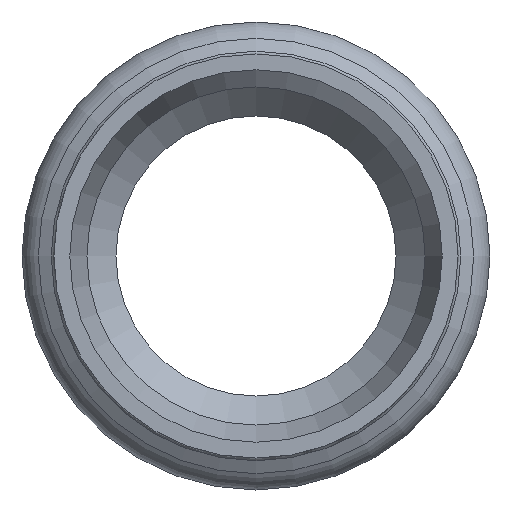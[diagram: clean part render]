
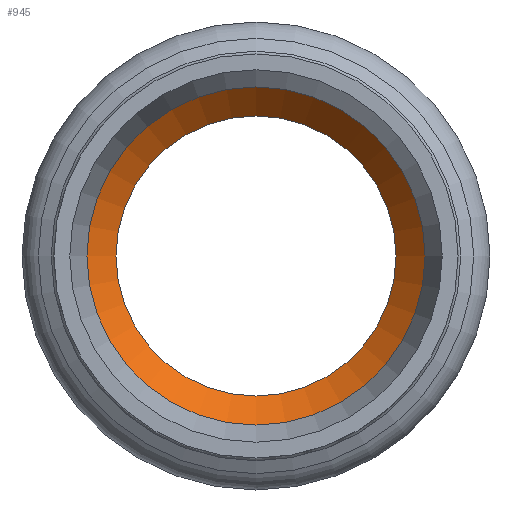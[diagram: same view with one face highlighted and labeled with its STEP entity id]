
A CAD part, left-side view. The second image highlights one B-rep face of the part: STEP entity #945.
In plain terms, the highlighted free-form (B-spline) face has degree [1, 2] with [2, 9] control points.
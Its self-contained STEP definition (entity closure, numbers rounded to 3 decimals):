
#897=CARTESIAN_POINT('',(16.0,0.,-25.0));
#898=CARTESIAN_POINT('',(13.25,0.,-22.25));
#899=CARTESIAN_POINT('',(16.,-16.,-25.0));
#900=CARTESIAN_POINT('',(13.25,-13.25,-22.25));
#901=CARTESIAN_POINT('',(0.,-16.0,-25.0));
#902=CARTESIAN_POINT('',(0.,-13.25,-22.25));
#903=CARTESIAN_POINT('',(-16.,-16.,-25.0));
#904=CARTESIAN_POINT('',(-13.25,-13.25,-22.25));
#905=CARTESIAN_POINT('',(-16.0,0.,-25.0));
#906=CARTESIAN_POINT('',(-13.25,0.,-22.25));
#907=CARTESIAN_POINT('',(-16.,16.,-25.0));
#908=CARTESIAN_POINT('',(-13.25,13.25,-22.25));
#909=CARTESIAN_POINT('',(0.,16.0,-25.0));
#910=CARTESIAN_POINT('',(0.,13.25,-22.25));
#911=CARTESIAN_POINT('',(16.,16.,-25.0));
#912=CARTESIAN_POINT('',(13.25,13.25,-22.25));
#913=CARTESIAN_POINT('',(16.0,0.,-25.0));
#914=CARTESIAN_POINT('',(13.25,0.,-22.25));
#922=(BOUNDED_SURFACE()B_SPLINE_SURFACE(1,2,((#897,#899,#901,#903,#905,#907,#909,#911,#913),(#898,#900,#902,#904,#906,#908,#910,#912,#914)),.UNSPECIFIED.,.F.,.T.,.U.)B_SPLINE_SURFACE_WITH_KNOTS((2,2),(3,2,2,2,3),(-1.414,-0.928),(0.0,12.566,25.133,37.699,50.265),.UNSPECIFIED.)GEOMETRIC_REPRESENTATION_ITEM()RATIONAL_B_SPLINE_SURFACE(((1.0,0.707,1.0,0.707,1.0,0.707,1.0,0.707,1.0),(1.0,0.707,1.0,0.707,1.0,0.707,1.0,0.707,1.0)))REPRESENTATION_ITEM('')SURFACE());
#923=CARTESIAN_POINT('',(-13.25,0.,-22.25));
#924=VERTEX_POINT('',#923);
#925=CARTESIAN_POINT('',(0.0,0.0,-22.25));
#926=DIRECTION('',(0.0,0.0,-1.0));
#927=DIRECTION('',(1.0,0.0,0.0));
#928=AXIS2_PLACEMENT_3D('',#925,#926,#927);
#929=CIRCLE('',#928,13.25);
#930=EDGE_CURVE('',#924,#924,#929,.T.);
#931=ORIENTED_EDGE('',*,*,#930,.F.);
#932=EDGE_LOOP('',(#931));
#933=FACE_OUTER_BOUND('',#932,.T.);
#934=CARTESIAN_POINT('',(-16.0,0.0,-25.0));
#935=VERTEX_POINT('',#934);
#936=CARTESIAN_POINT('',(0.0,0.0,-25.0));
#937=DIRECTION('',(0.0,0.0,-1.0));
#938=DIRECTION('',(-1.0,0.0,0.0));
#939=AXIS2_PLACEMENT_3D('',#936,#937,#938);
#940=CIRCLE('',#939,16.0);
#941=EDGE_CURVE('',#935,#935,#940,.T.);
#942=ORIENTED_EDGE('',*,*,#941,.T.);
#943=EDGE_LOOP('',(#942));
#944=FACE_BOUND('',#943,.T.);
#945=ADVANCED_FACE('',(#933,#944),#922,.F.);
